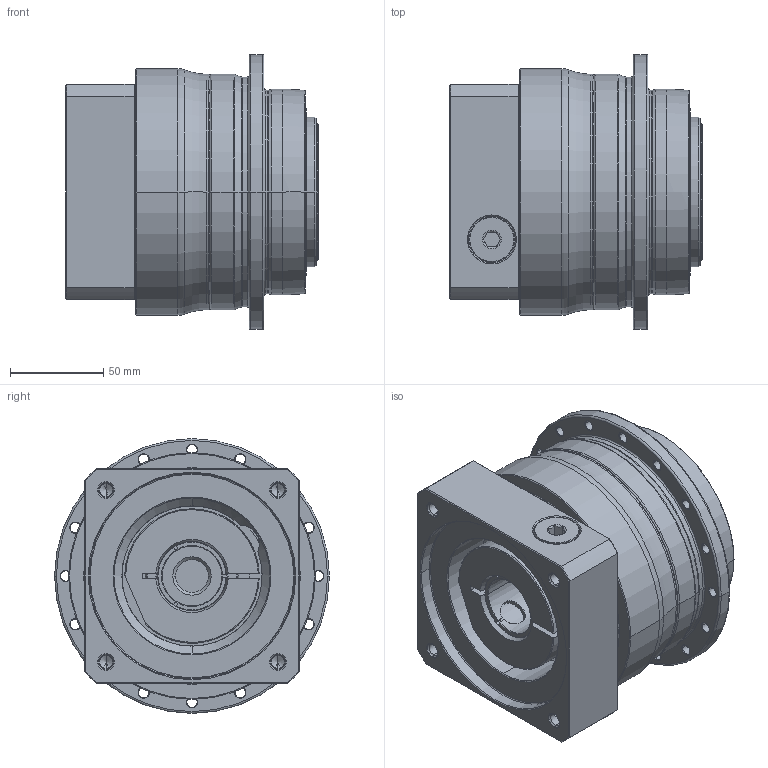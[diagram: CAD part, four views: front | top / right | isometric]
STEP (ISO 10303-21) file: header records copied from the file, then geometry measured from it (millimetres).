
FILE_DESCRIPTION((''),'2;1');
FILE_NAME('AP110_1ST_32-P0409710201_ASM','2018-05-24T',('d01226'),(''),'PRO/ENGINEER BY PARAMETRIC TECHNOLOGY CORPORATION, 2008410','PRO/ENGINEER BY PARAMETRIC TECHNOLOGY CORPORATION, 2008410','');
FILE_SCHEMA(('CONFIG_CONTROL_DESIGN'));
Length unit declared in the file: millimetre
Products named in the file (9): P0278401003; P0359401103; P1318410301; P0503700010; P0912453001; P1211400002; P0409710201; 21711418017; AP110_1ST_32-P0409710201_ASM
Assembly tree (8 placements, depth 2):
  AP110_1ST_32-P0409710201_ASM
    P0278401003
    P0359401103
    P1318410301
    P0503700010
    P0912453001
    P1211400002
    P0409710201
    21711418017
Bounding box: 135 x 147 x 147 mm (x, y, z)
Volume: 1320694.8 mm3; surface area: 226703.7 mm2
Topology: 9 solids, 30 shells, 560 faces, 1301 edges, 802 vertices
Faces by surface type: cylinder 231, cone 147, plane 99, torus 69, bspline 14
Entity records: 21010 total; most frequent: CARTESIAN_POINT 7567, DIRECTION 3079, ORIENTED_EDGE 2500, AXIS2_PLACEMENT_3D 1318, EDGE_CURVE 1293, VERTEX_POINT 802, CIRCLE 745, EDGE_LOOP 685
